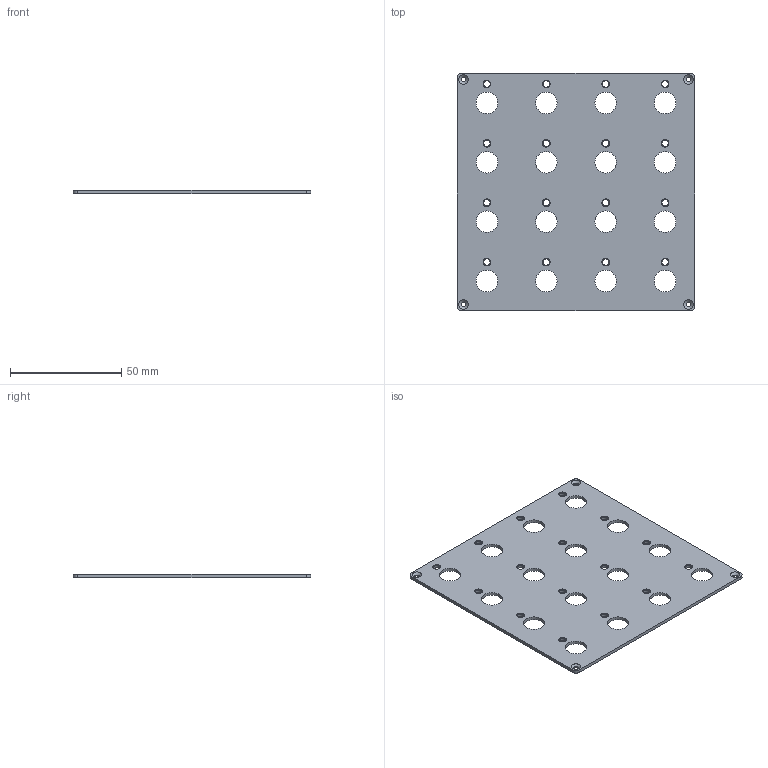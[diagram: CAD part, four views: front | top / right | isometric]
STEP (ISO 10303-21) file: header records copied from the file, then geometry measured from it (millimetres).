
FILE_DESCRIPTION(('FreeCAD Model'),'2;1');
FILE_NAME('/home/suku/Desktop/Frontpanel20201228/BU16.step', '2020-12-28T10:04:39',('Author'),(''), 'Open CASCADE STEP processor 7.4','FreeCAD','Unknown');
FILE_SCHEMA(('AUTOMOTIVE_DESIGN { 1 0 10303 214 1 1 1 1 }'));
Length unit declared in the file: millimetre
Products named in the file (1): BU16
Bounding box: 106.6 x 106.6 x 1.5 mm (x, y, z)
Volume: 14795.5 mm3; surface area: 22252.5 mm2
Topology: 1 solids, 1 shells, 102 faces, 236 edges, 156 vertices
Faces by surface type: cylinder 64, plane 34, cone 4
Full cylindrical faces by diameter (mm): 2.2 x4, 2.9 x16, 3.45 x16, 9.7 x16
Entity records: 6350 total; most frequent: CARTESIAN_POINT 1279, DIRECTION 994, ORIENTED_EDGE 472, PCURVE 472, DEFINITIONAL_REPRESENTATION 472, LINE 448, VECTOR 448, EDGE_CURVE 236
